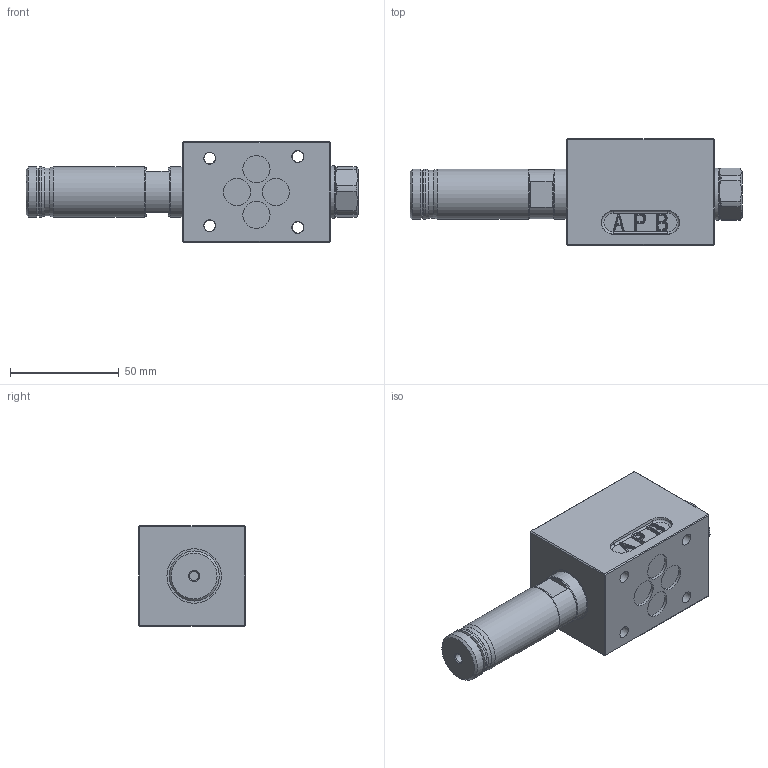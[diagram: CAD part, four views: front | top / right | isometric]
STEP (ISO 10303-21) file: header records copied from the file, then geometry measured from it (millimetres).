
FILE_DESCRIPTION (( 'STEP AP214' ), '1' );
FILE_NAME ('WDPFA06-4_2-Aside.STEP', '2018-03-09T08:57:59', ( '' ), ( '' ), 'SwSTEP 2.0', 'SolidWorks 2016', '' );
FILE_SCHEMA (( 'AUTOMOTIVE_DESIGN' ));
Length unit declared in the file: millimetre
Products named in the file (1): WDPFA06-4_2-Aside
Bounding box: 152.4 x 49 x 46 mm (x, y, z)
Volume: 179836.3 mm3; surface area: 29807.4 mm2
Topology: 3 solids, 4 shells, 1088 faces, 3036 edges, 1972 vertices
Faces by surface type: plane 593, cylinder 397, bspline 36, torus 24, cone 21, sphere 17
Full cylindrical faces by diameter (mm): 1.4 x2, 4.2 x1, 5.2 x4, 5.5 x4, 7.5 x4, 9.5 x4, 12.5 x4, 22 x1, 22.4 x1, 23 x4, 24 x1, 25 x2
Entity records: 48471 total; most frequent: CARTESIAN_POINT 8230, DIRECTION 5997, ORIENTED_EDGE 5918, EDGE_CURVE 2959, AXIS2_PLACEMENT_3D 2087, VERTEX_POINT 1961, VECTOR 1823, LINE 1823
